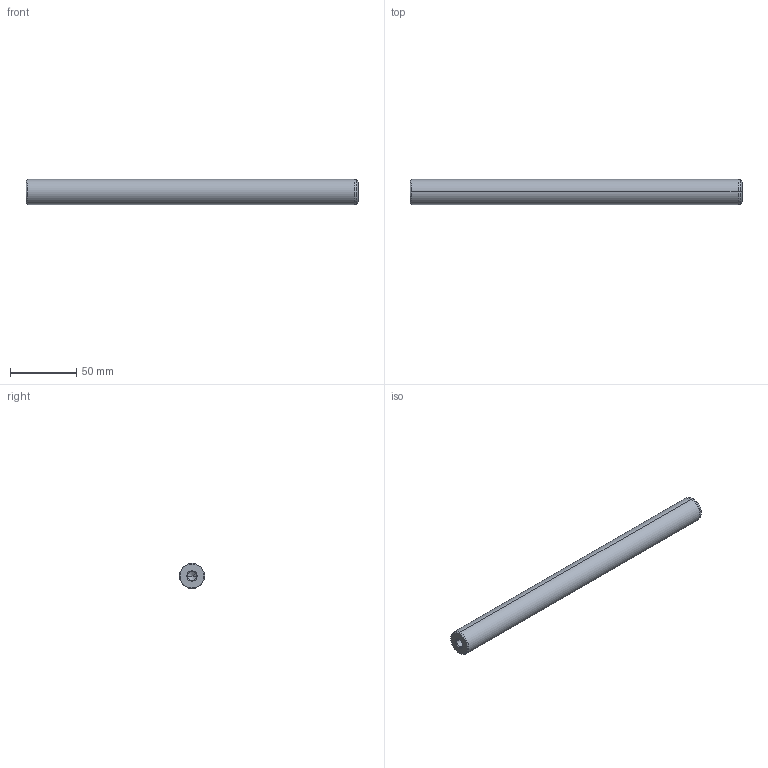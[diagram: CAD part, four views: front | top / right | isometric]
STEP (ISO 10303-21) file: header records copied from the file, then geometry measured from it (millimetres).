
FILE_DESCRIPTION(('CATIA V5 STEP Exchange'),'2;1');
FILE_NAME('C:\Users\Utente\Desktop\IO LAVORO\3D X SITO CF\X SITO\720\720-19x250.stp','2021-01-01T13:03:52+00:00',('none'),('none'),'CATIA Version 5 Release 20 GA (IN-10)','CATIA V5 STEP AP203','none');
FILE_SCHEMA(('CONFIG_CONTROL_DESIGN'));
Length unit declared in the file: millimetre
Products named in the file (1): 720-19x250
Bounding box: 250 x 19 x 19 mm (x, y, z)
Volume: 69051.2 mm3; surface area: 16387.8 mm2
Topology: 1 solids, 1 shells, 22 faces, 56 edges, 34 vertices
Faces by surface type: cone 12, cylinder 6, plane 2, torus 2
Entity records: 755 total; most frequent: CARTESIAN_POINT 216, ORIENTED_EDGE 104, DIRECTION 89, EDGE_CURVE 52, AXIS2_PLACEMENT_3D 50, VERTEX_POINT 34, CIRCLE 27, EDGE_LOOP 24
